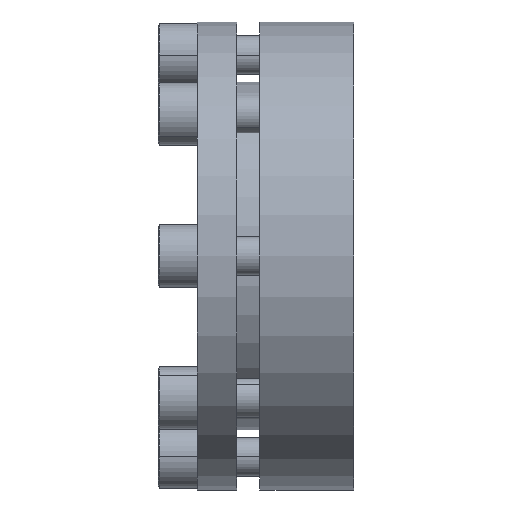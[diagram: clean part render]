
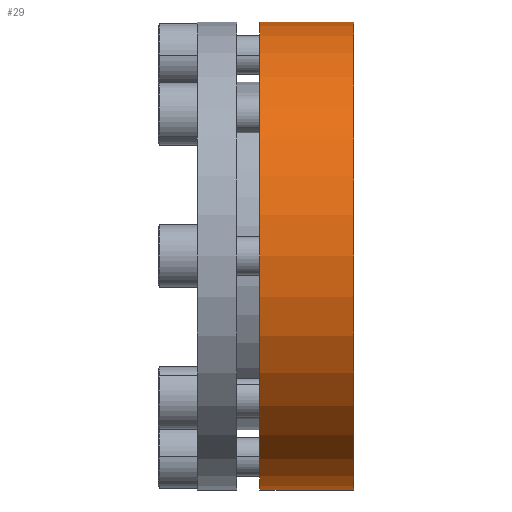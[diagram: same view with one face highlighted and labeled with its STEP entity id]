
A CAD part, front view. The second image highlights one B-rep face of the part: STEP entity #29.
In plain terms, the highlighted cylindrical face has radius 60 mm (diameter 120 mm), a partial arc.
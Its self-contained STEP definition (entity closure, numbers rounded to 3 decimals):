
#17 = EDGE_CURVE ( 'NONE', #362, #361, #1879, .T. ) ;
#28 = EDGE_LOOP ( 'NONE', ( #397, #398, #399, #400 ) ) ;
#29 = ADVANCED_FACE ( 'NONE', ( #1859 ), #1858, .T. ) ;
#361 = VERTEX_POINT ( 'NONE', #2550 ) ;
#362 = VERTEX_POINT ( 'NONE', #2549 ) ;
#364 = EDGE_CURVE ( 'NONE', #362, #365, #2548, .T. ) ;
#365 = VERTEX_POINT ( 'NONE', #2544 ) ;
#368 = VERTEX_POINT ( 'NONE', #2538 ) ;
#370 = EDGE_CURVE ( 'NONE', #361, #368, #2537, .T. ) ;
#397 = ORIENTED_EDGE ( 'NONE', *, *, #364, .F. ) ;
#398 = ORIENTED_EDGE ( 'NONE', *, *, #17, .T. ) ;
#399 = ORIENTED_EDGE ( 'NONE', *, *, #370, .T. ) ;
#400 = ORIENTED_EDGE ( 'NONE', *, *, #401, .F. ) ;
#401 = EDGE_CURVE ( 'NONE', #365, #368, #2627, .T. ) ;
#1856 = CARTESIAN_POINT ( 'NONE',  ( 0., 0., 0. ) ) ;
#1857 = AXIS2_PLACEMENT_3D ( 'NONE', #1856, #1921, #1920 ) ;
#1858 = CYLINDRICAL_SURFACE ( 'NONE', #1857, 60. ) ;
#1859 = FACE_OUTER_BOUND ( 'NONE', #28, .T. ) ;
#1875 = DIRECTION ( 'NONE',  ( 0., 0., 1. ) ) ;
#1876 = DIRECTION ( 'NONE',  ( -1., 0., 0. ) ) ;
#1877 = CARTESIAN_POINT ( 'NONE',  ( 40., 0., 0. ) ) ;
#1878 = AXIS2_PLACEMENT_3D ( 'NONE', #1877, #1876, #1875 ) ;
#1879 = CIRCLE ( 'NONE', #1878, 60. ) ;
#1920 = DIRECTION ( 'NONE',  ( 0., 0., 1. ) ) ;
#1921 = DIRECTION ( 'NONE',  ( -1., 0., 0. ) ) ;
#2534 = DIRECTION ( 'NONE',  ( -1., 0., 0. ) ) ;
#2535 = VECTOR ( 'NONE', #2534, 1000. ) ;
#2536 = CARTESIAN_POINT ( 'NONE',  ( 0., 0., 60. ) ) ;
#2537 = LINE ( 'NONE', #2536, #2535 ) ;
#2538 = CARTESIAN_POINT ( 'NONE',  ( 16., 0., 60. ) ) ;
#2544 = CARTESIAN_POINT ( 'NONE',  ( 16., 0., -60. ) ) ;
#2545 = DIRECTION ( 'NONE',  ( -1., 0., 0. ) ) ;
#2546 = VECTOR ( 'NONE', #2545, 1000. ) ;
#2547 = CARTESIAN_POINT ( 'NONE',  ( 0., 0., -60. ) ) ;
#2548 = LINE ( 'NONE', #2547, #2546 ) ;
#2549 = CARTESIAN_POINT ( 'NONE',  ( 40., 0., -60. ) ) ;
#2550 = CARTESIAN_POINT ( 'NONE',  ( 40., 0., 60. ) ) ;
#2623 = DIRECTION ( 'NONE',  ( 0., 0., 1. ) ) ;
#2624 = DIRECTION ( 'NONE',  ( -1., 0., 0. ) ) ;
#2625 = CARTESIAN_POINT ( 'NONE',  ( 16., 0., 0. ) ) ;
#2626 = AXIS2_PLACEMENT_3D ( 'NONE', #2625, #2624, #2623 ) ;
#2627 = CIRCLE ( 'NONE', #2626, 60. ) ;
